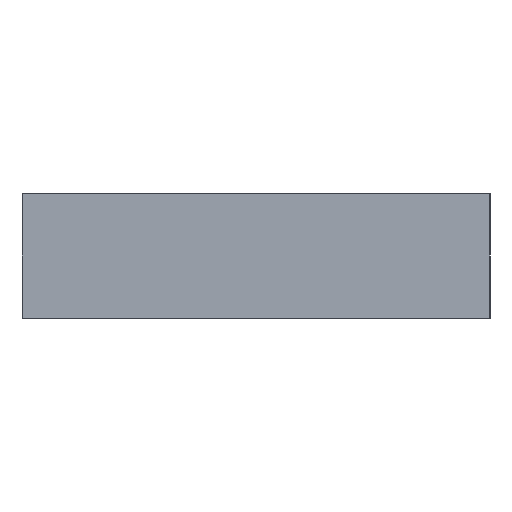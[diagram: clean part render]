
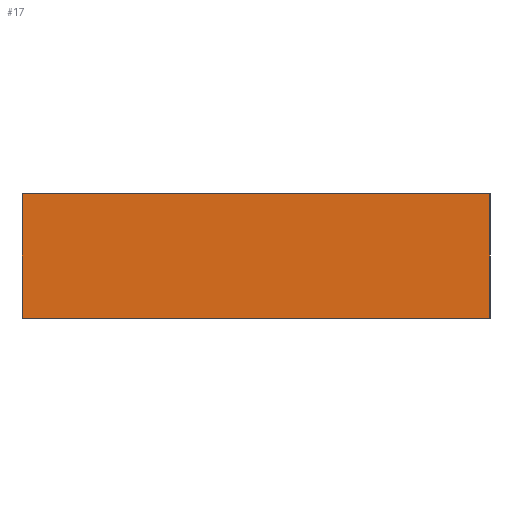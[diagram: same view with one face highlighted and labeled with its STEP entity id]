
A CAD part, left-side view. The second image highlights one B-rep face of the part: STEP entity #17.
In plain terms, the highlighted planar face has unit normal (-1, 0, 0).
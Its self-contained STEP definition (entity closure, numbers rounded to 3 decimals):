
#17 = ADVANCED_FACE('',(#18),#52,.F.);
#18 = FACE_BOUND('',#19,.F.);
#19 = EDGE_LOOP('',(#20,#30,#38,#46));
#20 = ORIENTED_EDGE('',*,*,#21,.F.);
#21 = EDGE_CURVE('',#22,#24,#26,.T.);
#22 = VERTEX_POINT('',#23);
#23 = CARTESIAN_POINT('',(-52.35,-11.6,33.25));
#24 = VERTEX_POINT('',#25);
#25 = CARTESIAN_POINT('',(-52.35,-11.6,34.85));
#26 = LINE('',#27,#28);
#27 = CARTESIAN_POINT('',(-52.35,-11.6,33.25));
#28 = VECTOR('',#29,1.);
#29 = DIRECTION('',(0.,0.,1.));
#30 = ORIENTED_EDGE('',*,*,#31,.T.);
#31 = EDGE_CURVE('',#22,#32,#34,.T.);
#32 = VERTEX_POINT('',#33);
#33 = CARTESIAN_POINT('',(-52.35,-5.6,33.25));
#34 = LINE('',#35,#36);
#35 = CARTESIAN_POINT('',(-52.35,-11.6,33.25));
#36 = VECTOR('',#37,1.);
#37 = DIRECTION('',(0.,1.,0.));
#38 = ORIENTED_EDGE('',*,*,#39,.T.);
#39 = EDGE_CURVE('',#32,#40,#42,.T.);
#40 = VERTEX_POINT('',#41);
#41 = CARTESIAN_POINT('',(-52.35,-5.6,34.85));
#42 = LINE('',#43,#44);
#43 = CARTESIAN_POINT('',(-52.35,-5.6,33.25));
#44 = VECTOR('',#45,1.);
#45 = DIRECTION('',(0.,0.,1.));
#46 = ORIENTED_EDGE('',*,*,#47,.F.);
#47 = EDGE_CURVE('',#24,#40,#48,.T.);
#48 = LINE('',#49,#50);
#49 = CARTESIAN_POINT('',(-52.35,-11.6,34.85));
#50 = VECTOR('',#51,1.);
#51 = DIRECTION('',(0.,1.,0.));
#52 = PLANE('',#53);
#53 = AXIS2_PLACEMENT_3D('',#54,#55,#56);
#54 = CARTESIAN_POINT('',(-52.35,-11.6,33.25));
#55 = DIRECTION('',(1.,0.,0.));
#56 = DIRECTION('',(0.,0.,1.));
